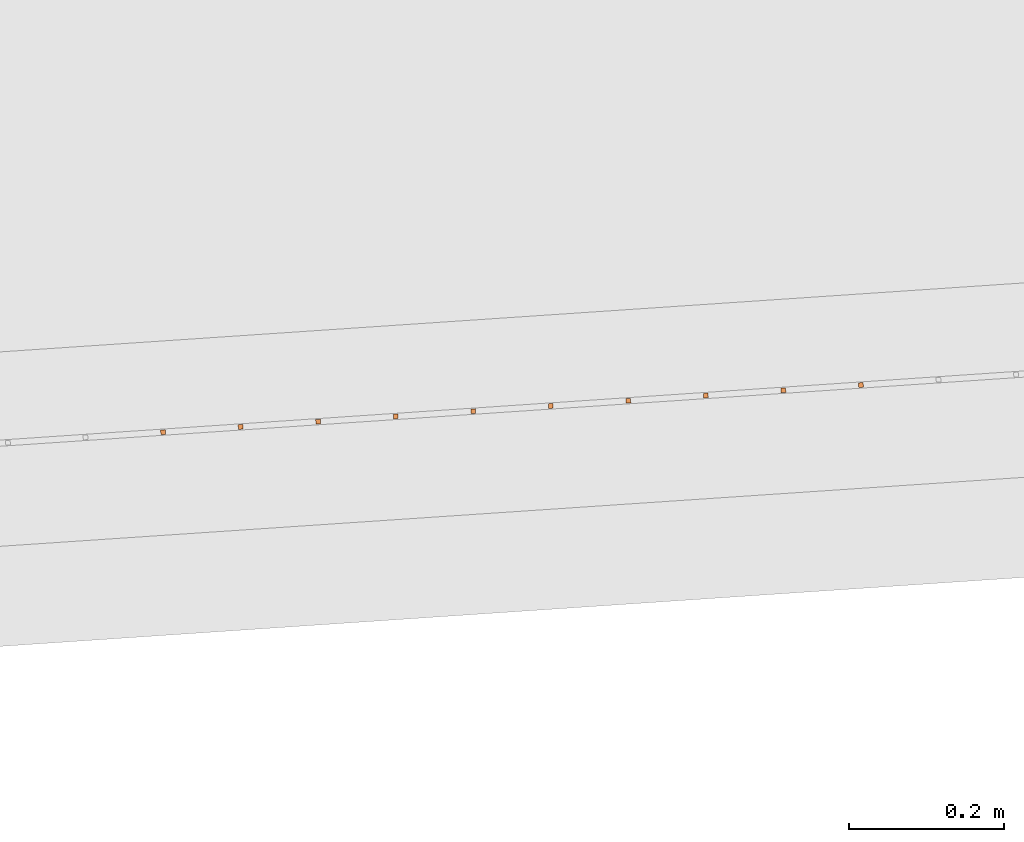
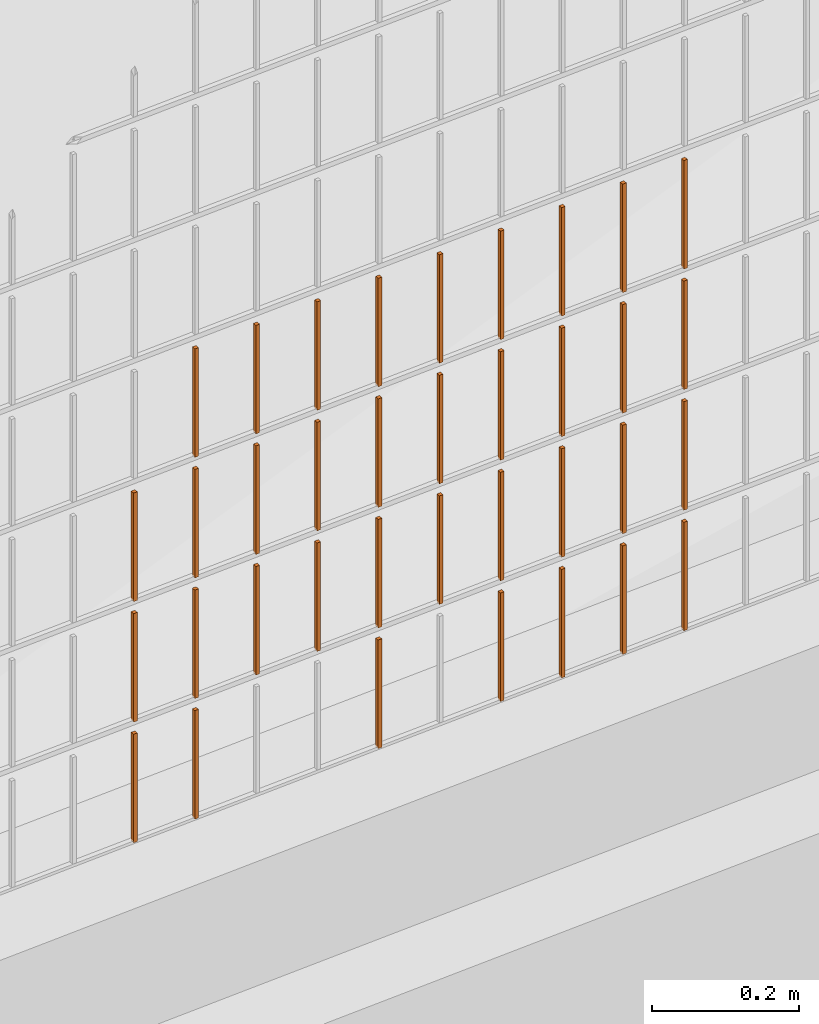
# One storey, part 71 of 1809: 36 proxies, 1 element without a shape of its own.
"""IFC2X3 building model written with IfcOpenShell, lengths in millimetres."""

from ifc_helpers import new_model, entity, si_unit, converted_unit, derived_unit, money_unit, direction, frame, origin_with_axes, place, context, subcontext, project, spatial, faceted_brep, source, transform, mapped, material, type_object, element, aggregate, save


model = new_model("IFC2X3")

# Units and contexts
model_context = context("Model", 3, precision=0.01, world=origin_with_axes(), true_north=direction((0.0, 1.0)))
body_context = subcontext(model_context, "Body", "Model", "MODEL_VIEW")
ifc_project = project(units=[si_unit("LENGTHUNIT", "METRE", prefix="MILLI"), si_unit("AREAUNIT", "SQUARE_METRE"), si_unit("VOLUMEUNIT", "CUBIC_METRE"), converted_unit("PLANEANGLEUNIT", "DEGREE", entity("IfcPlaneAngleMeasure", 0.0174532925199), si_unit("PLANEANGLEUNIT", "RADIAN"), dimensions=[0, 0, 0, 0, 0, 0, 0]), si_unit("SOLIDANGLEUNIT", "STERADIAN"), money_unit("EUR"), converted_unit("TIMEUNIT", "Year", entity("IfcTimeMeasure", 31556926.0), si_unit("TIMEUNIT", "SECOND"), dimensions=[0, 0, 1, 0, 0, 0, 0]), si_unit("MASSUNIT", "GRAM", prefix="KILO"), si_unit("THERMODYNAMICTEMPERATUREUNIT", "DEGREE_CELSIUS"), si_unit("LUMINOUSINTENSITYUNIT", "LUMEN"), si_unit("ENERGYUNIT", "JOULE", prefix="MEGA"), derived_unit("THERMALCONDUCTANCEUNIT", [(si_unit("POWERUNIT", "WATT"), 1), (si_unit("LENGTHUNIT", "METRE"), -1), (si_unit("THERMODYNAMICTEMPERATUREUNIT", "KELVIN"), -1)]), derived_unit("SPECIFICHEATCAPACITYUNIT", [(si_unit("ENERGYUNIT", "JOULE"), 1), (si_unit("MASSUNIT", "GRAM", prefix="KILO"), -1), (si_unit("THERMODYNAMICTEMPERATUREUNIT", "KELVIN"), -1)]), derived_unit("MASSDENSITYUNIT", [(si_unit("MASSUNIT", "GRAM", prefix="KILO"), 1), (si_unit("VOLUMEUNIT", "CUBIC_METRE"), -1)])], contexts=[model_context])

# Site, building, storey
site_placement = place(None, origin_with_axes())
site = spatial("IfcSite", under=ifc_project, at=site_placement, Name="Politse- ja Piirivalveameti ning Päästeameti ühishoone", CompositionType="ELEMENT")
building_placement = place(site_placement, origin_with_axes())
building = spatial("IfcBuilding", under=site, at=building_placement, Name="Politse- ja Piirivalveameti ning Päästeameti ühishoone", CompositionType="ELEMENT")
storey_placement = place(building_placement, origin_with_axes())
storey = spatial("IfcBuildingStorey", under=building, at=storey_placement, Name="Esimene korrus", CompositionType="ELEMENT", Elevation=0.0)

# Proxies
building_element_proxy_type_1 = type_object("IfcBuildingElementProxyType", Name="Railing Type", PredefinedType="NOTDEFINED")
proxy_1_placement = place(storey_placement, frame((89252.001212, -29183.4766571, 203.661247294), z_axis=(0.0, 0.0, 1.0), x_axis=(1.0, 0.0, 0.0)))
proxy_1 = element("IfcBuildingElementProxy", 1, at=proxy_1_placement, inside=storey, type_object=building_element_proxy_type_1, Name="PIIRDEAED")
ifc_material = material(Name="ET-03_Raud")
building_element_proxy_type_2 = type_object("IfcBuildingElementProxyType", Name="IfcBuildingElementProxy", PredefinedType="NOTDEFINED")
shared_shape_1 = source(origin_with_axes(), body_context, "Body", "Brep", [
    faceted_brep([(3.0, 3.0, -0.000752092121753), (-3.0, 3.0, -0.000752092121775), (-3.0, 3.0, 179.99926046), (3.0, 3.0, 179.99926046), (3.0, -3.0, 0.000752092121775), (-3.0, -3.0, 0.000752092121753), (-3.0, -3.0, 180.000764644), (3.0, -3.0, 180.000764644)], [[[0, 1, 2, 3]], [[0, 4, 5, 1]], [[1, 5, 6, 2]], [[3, 2, 6, 7]], [[4, 0, 3, 7]], [[5, 4, 7, 6]]]),
])
proxy_2_placement = place(proxy_1_placement, frame((-105187.003582, -24402.7598921, 400.804191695), z_axis=(0.0, 0.0, 1.0), x_axis=(1.0, 0.0, 0.0)))
proxy_2 = element("IfcBuildingElementProxy", 2, at=proxy_2_placement, type_object=building_element_proxy_type_2, material=ifc_material, Name="BALUSTER - 001", context=body_context, shape_type="MappedRepresentation", body=[
    mapped(shared_shape_1, transform((0.0, 0.0, 0.0), x_axis=(-0.0673926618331, 0.997726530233, 0.0), y_axis=(-0.997726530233, -0.0673926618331, 0.0), z_axis=(0.0, 0.0, 1.0))),
])
shared_shape_2 = source(origin_with_axes(), body_context, "Body", "Brep", [
    faceted_brep([(3.0, 3.0, -0.000752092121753), (-3.0, 3.0, -0.000752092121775), (-3.0, 3.0, 179.99926046), (3.0, 3.0, 179.99926046), (3.0, -3.0, 0.000752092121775), (-3.0, -3.0, 0.000752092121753), (-3.0, -3.0, 180.000764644), (3.0, -3.0, 180.000764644)], [[[0, 1, 2, 3]], [[0, 4, 5, 1]], [[1, 5, 6, 2]], [[3, 2, 6, 7]], [[4, 0, 3, 7]], [[5, 4, 7, 6]]]),
])
proxy_3_placement = place(proxy_1_placement, frame((-105187.003582, -24402.7598921, 0.804191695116), z_axis=(0.0, 0.0, 1.0), x_axis=(1.0, 0.0, 0.0)))
proxy_3 = element("IfcBuildingElementProxy", 3, at=proxy_3_placement, type_object=building_element_proxy_type_2, material=ifc_material, Name="BALUSTER - 001", context=body_context, shape_type="MappedRepresentation", body=[
    mapped(shared_shape_2, transform((0.0, 0.0, 0.0), x_axis=(-0.0673926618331, 0.997726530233, 0.0), y_axis=(-0.997726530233, -0.0673926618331, 0.0), z_axis=(0.0, 0.0, 1.0))),
])
shared_shape_3 = source(origin_with_axes(), body_context, "Body", "Brep", [
    faceted_brep([(3.0, 3.0, -0.000752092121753), (-3.0, 3.0, -0.000752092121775), (-3.0, 3.0, 179.99926046), (3.0, 3.0, 179.99926046), (3.0, -3.0, 0.000752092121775), (-3.0, -3.0, 0.000752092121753), (-3.0, -3.0, 180.000764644), (3.0, -3.0, 180.000764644)], [[[0, 1, 2, 3]], [[0, 4, 5, 1]], [[1, 5, 6, 2]], [[3, 2, 6, 7]], [[4, 0, 3, 7]], [[5, 4, 7, 6]]]),
])
proxy_4_placement = place(proxy_1_placement, frame((-105187.003582, -24402.7598921, 200.804191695), z_axis=(0.0, 0.0, 1.0), x_axis=(1.0, 0.0, 0.0)))
proxy_4 = element("IfcBuildingElementProxy", 4, at=proxy_4_placement, type_object=building_element_proxy_type_2, material=ifc_material, Name="BALUSTER - 001", context=body_context, shape_type="MappedRepresentation", body=[
    mapped(shared_shape_3, transform((0.0, 0.0, 0.0), x_axis=(-0.0673926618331, 0.997726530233, 0.0), y_axis=(-0.997726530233, -0.0673926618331, 0.0), z_axis=(0.0, 0.0, 1.0))),
])
proxy_5_placement = place(proxy_1_placement, frame((-105187.003582, -24402.7598921, 600.804191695), z_axis=(0.0, 0.0, 1.0), x_axis=(1.0, 0.0, 0.0)))
proxy_5 = element("IfcBuildingElementProxy", 5, at=proxy_5_placement, type_object=building_element_proxy_type_2, material=ifc_material, Name="BALUSTER - 001", context=body_context, shape_type="MappedRepresentation", body=[
    mapped(shared_shape_3, transform((0.0, 0.0, 0.0), x_axis=(-0.0673926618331, 0.997726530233, 0.0), y_axis=(-0.997726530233, -0.0673926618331, 0.0), z_axis=(0.0, 0.0, 1.0))),
])
shared_shape_4 = source(origin_with_axes(), body_context, "Body", "Brep", [
    faceted_brep([(3.0, 3.0, -0.000752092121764), (-3.0, 3.0, -0.000752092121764), (-3.0, 3.0, 179.99926046), (3.0, 3.0, 179.99926046), (3.0, -3.0, 0.000752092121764), (-3.0, -3.0, 0.000752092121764), (-3.0, -3.0, 180.000764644), (3.0, -3.0, 180.000764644)], [[[0, 1, 2, 3]], [[0, 4, 5, 1]], [[1, 5, 6, 2]], [[3, 2, 6, 7]], [[4, 0, 3, 7]], [[5, 4, 7, 6]]]),
])
proxy_6_placement = place(proxy_1_placement, frame((-105985.184806, -24456.6740216, 0.603633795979), z_axis=(0.0, 0.0, 1.0), x_axis=(1.0, 0.0, 0.0)))
proxy_6 = element("IfcBuildingElementProxy", 6, at=proxy_6_placement, type_object=building_element_proxy_type_2, material=ifc_material, Name="BALUSTER - 001", context=body_context, shape_type="MappedRepresentation", body=[
    mapped(shared_shape_4, transform((0.0, 0.0, 0.0), x_axis=(-0.0673926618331, 0.997726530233, 0.0), y_axis=(-0.997726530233, -0.0673926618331, 0.0), z_axis=(0.0, 0.0, 1.0))),
])
shared_shape_5 = source(origin_with_axes(), body_context, "Body", "Brep", [
    faceted_brep([(3.0, 3.0, -0.000752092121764), (-3.0, 3.0, -0.000752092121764), (-3.0, 3.0, 179.99926046), (3.0, 3.0, 179.99926046), (3.0, -3.0, 0.000752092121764), (-3.0, -3.0, 0.000752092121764), (-3.0, -3.0, 180.000764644), (3.0, -3.0, 180.000764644)], [[[0, 1, 2, 3]], [[0, 4, 5, 1]], [[1, 5, 6, 2]], [[3, 2, 6, 7]], [[4, 0, 3, 7]], [[5, 4, 7, 6]]]),
])
proxy_7_placement = place(proxy_1_placement, frame((-105386.548888, -24416.2384245, 0.754052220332), z_axis=(0.0, 0.0, 1.0), x_axis=(1.0, 0.0, 0.0)))
proxy_7 = element("IfcBuildingElementProxy", 7, at=proxy_7_placement, type_object=building_element_proxy_type_2, material=ifc_material, Name="BALUSTER - 001", context=body_context, shape_type="MappedRepresentation", body=[
    mapped(shared_shape_5, transform((0.0, 0.0, 0.0), x_axis=(-0.0673926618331, 0.997726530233, 0.0), y_axis=(-0.997726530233, -0.0673926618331, 0.0), z_axis=(0.0, 0.0, 1.0))),
])
shared_shape_6 = source(origin_with_axes(), body_context, "Body", "Brep", [
    faceted_brep([(3.0, 3.0, -0.000752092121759), (-3.0, 3.0, -0.000752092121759), (-3.0, 3.0, 179.99926046), (3.0, 3.0, 179.99926046), (3.0, -3.0, 0.000752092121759), (-3.0, -3.0, 0.000752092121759), (-3.0, -3.0, 180.000764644), (3.0, -3.0, 180.000764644)], [[[0, 1, 2, 3]], [[0, 4, 5, 1]], [[1, 5, 6, 2]], [[3, 2, 6, 7]], [[4, 0, 3, 7]], [[5, 4, 7, 6]]]),
])
proxy_8_placement = place(proxy_1_placement, frame((-105486.321541, -24422.9776907, 0.72898248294), z_axis=(0.0, 0.0, 1.0), x_axis=(1.0, 0.0, 0.0)))
proxy_8 = element("IfcBuildingElementProxy", 8, at=proxy_8_placement, type_object=building_element_proxy_type_2, material=ifc_material, Name="BALUSTER - 001", context=body_context, shape_type="MappedRepresentation", body=[
    mapped(shared_shape_6, transform((0.0, 0.0, 0.0), x_axis=(-0.0673926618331, 0.997726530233, 0.0), y_axis=(-0.997726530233, -0.0673926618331, 0.0), z_axis=(0.0, 0.0, 1.0))),
])
proxy_9_placement = place(proxy_1_placement, frame((-105486.321541, -24422.9776907, 200.728982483), z_axis=(0.0, 0.0, 1.0), x_axis=(1.0, 0.0, 0.0)))
proxy_9 = element("IfcBuildingElementProxy", 9, at=proxy_9_placement, type_object=building_element_proxy_type_2, material=ifc_material, Name="BALUSTER - 001", context=body_context, shape_type="MappedRepresentation", body=[
    mapped(shared_shape_6, transform((0.0, 0.0, 0.0), x_axis=(-0.0673926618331, 0.997726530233, 0.0), y_axis=(-0.997726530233, -0.0673926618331, 0.0), z_axis=(0.0, 0.0, 1.0))),
])
shared_shape_7 = source(origin_with_axes(), body_context, "Body", "Brep", [
    faceted_brep([(3.0, 3.0, -0.000752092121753), (-3.0, 3.0, -0.000752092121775), (-3.0, 3.0, 179.99926046), (3.0, 3.0, 179.99926046), (3.0, -3.0, 0.000752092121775), (-3.0, -3.0, 0.000752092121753), (-3.0, -3.0, 180.000764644), (3.0, -3.0, 180.000764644)], [[[0, 1, 2, 3]], [[0, 4, 5, 1]], [[1, 5, 6, 2]], [[3, 2, 6, 7]], [[4, 0, 3, 7]], [[5, 4, 7, 6]]]),
])
proxy_10_placement = place(proxy_1_placement, frame((-106084.957459, -24463.4132878, 0.578564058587), z_axis=(0.0, 0.0, 1.0), x_axis=(1.0, 0.0, 0.0)))
proxy_10 = element("IfcBuildingElementProxy", 10, at=proxy_10_placement, type_object=building_element_proxy_type_2, material=ifc_material, Name="BALUSTER - 001", context=body_context, shape_type="MappedRepresentation", body=[
    mapped(shared_shape_7, transform((0.0, 0.0, 0.0), x_axis=(-0.0673926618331, 0.997726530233, 0.0), y_axis=(-0.997726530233, -0.0673926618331, 0.0), z_axis=(0.0, 0.0, 1.0))),
])
proxy_11_placement = place(proxy_1_placement, frame((-106084.957459, -24463.4132878, 200.578564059), z_axis=(0.0, 0.0, 1.0), x_axis=(1.0, 0.0, 0.0)))
proxy_11 = element("IfcBuildingElementProxy", 11, at=proxy_11_placement, type_object=building_element_proxy_type_2, material=ifc_material, Name="BALUSTER - 001", context=body_context, shape_type="MappedRepresentation", body=[
    mapped(shared_shape_7, transform((0.0, 0.0, 0.0), x_axis=(-0.0673926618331, 0.997726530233, 0.0), y_axis=(-0.997726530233, -0.0673926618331, 0.0), z_axis=(0.0, 0.0, 1.0))),
])
shared_shape_8 = source(origin_with_axes(), body_context, "Body", "Brep", [
    faceted_brep([(3.0, 3.0, -0.000752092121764), (-3.0, 3.0, -0.000752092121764), (-3.0, 3.0, 179.99926046), (3.0, 3.0, 179.99926046), (3.0, -3.0, 0.000752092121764), (-3.0, -3.0, 0.000752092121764), (-3.0, -3.0, 180.000764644), (3.0, -3.0, 180.000764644)], [[[0, 1, 2, 3]], [[0, 4, 5, 1]], [[1, 5, 6, 2]], [[3, 2, 6, 7]], [[4, 0, 3, 7]], [[5, 4, 7, 6]]]),
])
proxy_12_placement = place(proxy_1_placement, frame((-105386.548888, -24416.2384245, 200.75405222), z_axis=(0.0, 0.0, 1.0), x_axis=(1.0, 0.0, 0.0)))
proxy_12 = element("IfcBuildingElementProxy", 12, at=proxy_12_placement, type_object=building_element_proxy_type_2, material=ifc_material, Name="BALUSTER - 001", context=body_context, shape_type="MappedRepresentation", body=[
    mapped(shared_shape_8, transform((0.0, 0.0, 0.0), x_axis=(-0.0673926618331, 0.997726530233, 0.0), y_axis=(-0.997726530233, -0.0673926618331, 0.0), z_axis=(0.0, 0.0, 1.0))),
])
proxy_13_placement = place(proxy_1_placement, frame((-105985.184806, -24456.6740216, 200.603633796), z_axis=(0.0, 0.0, 1.0), x_axis=(1.0, 0.0, 0.0)))
proxy_13 = element("IfcBuildingElementProxy", 13, at=proxy_13_placement, type_object=building_element_proxy_type_2, material=ifc_material, Name="BALUSTER - 001", context=body_context, shape_type="MappedRepresentation", body=[
    mapped(shared_shape_8, transform((0.0, 0.0, 0.0), x_axis=(-0.0673926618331, 0.997726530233, 0.0), y_axis=(-0.997726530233, -0.0673926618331, 0.0), z_axis=(0.0, 0.0, 1.0))),
])
shared_shape_9 = source(origin_with_axes(), body_context, "Body", "Brep", [
    faceted_brep([(3.0, 3.0, -0.000752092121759), (-3.0, 3.0, -0.000752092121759), (-3.0, 3.0, 179.99926046), (3.0, 3.0, 179.99926046), (3.0, -3.0, 0.000752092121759), (-3.0, -3.0, 0.000752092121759), (-3.0, -3.0, 180.000764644), (3.0, -3.0, 180.000764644)], [[[0, 1, 2, 3]], [[0, 4, 5, 1]], [[1, 5, 6, 2]], [[3, 2, 6, 7]], [[4, 0, 3, 7]], [[5, 4, 7, 6]]]),
])
proxy_14_placement = place(proxy_1_placement, frame((-105586.094194, -24429.7169569, 400.703912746), z_axis=(0.0, 0.0, 1.0), x_axis=(1.0, 0.0, 0.0)))
proxy_14 = element("IfcBuildingElementProxy", 14, at=proxy_14_placement, type_object=building_element_proxy_type_2, material=ifc_material, Name="BALUSTER - 001", context=body_context, shape_type="MappedRepresentation", body=[
    mapped(shared_shape_9, transform((0.0, 0.0, 0.0), x_axis=(-0.0673926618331, 0.997726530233, 0.0), y_axis=(-0.997726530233, -0.0673926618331, 0.0), z_axis=(0.0, 0.0, 1.0))),
])
shared_shape_10 = source(origin_with_axes(), body_context, "Body", "Brep", [
    faceted_brep([(3.0, 3.0, -0.000752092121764), (-3.0, 3.0, -0.000752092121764), (-3.0, 3.0, 179.99926046), (3.0, 3.0, 179.99926046), (3.0, -3.0, 0.000752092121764), (-3.0, -3.0, 0.000752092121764), (-3.0, -3.0, 180.000764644), (3.0, -3.0, 180.000764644)], [[[0, 1, 2, 3]], [[0, 4, 5, 1]], [[1, 5, 6, 2]], [[3, 2, 6, 7]], [[4, 0, 3, 7]], [[5, 4, 7, 6]]]),
])
proxy_15_placement = place(proxy_1_placement, frame((-105386.548888, -24416.2384245, 400.75405222), z_axis=(0.0, 0.0, 1.0), x_axis=(1.0, 0.0, 0.0)))
proxy_15 = element("IfcBuildingElementProxy", 15, at=proxy_15_placement, type_object=building_element_proxy_type_2, material=ifc_material, Name="BALUSTER - 001", context=body_context, shape_type="MappedRepresentation", body=[
    mapped(shared_shape_10, transform((0.0, 0.0, 0.0), x_axis=(-0.0673926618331, 0.997726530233, 0.0), y_axis=(-0.997726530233, -0.0673926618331, 0.0), z_axis=(0.0, 0.0, 1.0))),
])
proxy_16_placement = place(proxy_1_placement, frame((-105985.184806, -24456.6740216, 400.603633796), z_axis=(0.0, 0.0, 1.0), x_axis=(1.0, 0.0, 0.0)))
proxy_16 = element("IfcBuildingElementProxy", 16, at=proxy_16_placement, type_object=building_element_proxy_type_2, material=ifc_material, Name="BALUSTER - 001", context=body_context, shape_type="MappedRepresentation", body=[
    mapped(shared_shape_10, transform((0.0, 0.0, 0.0), x_axis=(-0.0673926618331, 0.997726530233, 0.0), y_axis=(-0.997726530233, -0.0673926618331, 0.0), z_axis=(0.0, 0.0, 1.0))),
])
proxy_17_placement = place(proxy_1_placement, frame((-105386.548888, -24416.2384245, 600.75405222), z_axis=(0.0, 0.0, 1.0), x_axis=(1.0, 0.0, 0.0)))
proxy_17 = element("IfcBuildingElementProxy", 17, at=proxy_17_placement, type_object=building_element_proxy_type_2, material=ifc_material, Name="BALUSTER - 001", context=body_context, shape_type="MappedRepresentation", body=[
    mapped(shared_shape_10, transform((0.0, 0.0, 0.0), x_axis=(-0.0673926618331, 0.997726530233, 0.0), y_axis=(-0.997726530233, -0.0673926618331, 0.0), z_axis=(0.0, 0.0, 1.0))),
])
shared_shape_11 = source(origin_with_axes(), body_context, "Body", "Brep", [
    faceted_brep([(3.0, 3.0, -0.000752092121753), (-3.0, 3.0, -0.000752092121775), (-3.0, 3.0, 179.99926046), (3.0, 3.0, 179.99926046), (3.0, -3.0, 0.000752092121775), (-3.0, -3.0, 0.000752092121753), (-3.0, -3.0, 180.000764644), (3.0, -3.0, 180.000764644)], [[[0, 1, 2, 3]], [[0, 4, 5, 1]], [[1, 5, 6, 2]], [[3, 2, 6, 7]], [[4, 0, 3, 7]], [[5, 4, 7, 6]]]),
])
proxy_18_placement = place(proxy_1_placement, frame((-105685.866847, -24436.456223, 400.678843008), z_axis=(0.0, 0.0, 1.0), x_axis=(1.0, 0.0, 0.0)))
proxy_18 = element("IfcBuildingElementProxy", 18, at=proxy_18_placement, type_object=building_element_proxy_type_2, material=ifc_material, Name="BALUSTER - 001", context=body_context, shape_type="MappedRepresentation", body=[
    mapped(shared_shape_11, transform((0.0, 0.0, 0.0), x_axis=(-0.0673926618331, 0.997726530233, 0.0), y_axis=(-0.997726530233, -0.0673926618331, 0.0), z_axis=(0.0, 0.0, 1.0))),
])
proxy_19_placement = place(proxy_1_placement, frame((-105685.866847, -24436.456223, 600.678843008), z_axis=(0.0, 0.0, 1.0), x_axis=(1.0, 0.0, 0.0)))
proxy_19 = element("IfcBuildingElementProxy", 19, at=proxy_19_placement, type_object=building_element_proxy_type_2, material=ifc_material, Name="BALUSTER - 001", context=body_context, shape_type="MappedRepresentation", body=[
    mapped(shared_shape_11, transform((0.0, 0.0, 0.0), x_axis=(-0.0673926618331, 0.997726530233, 0.0), y_axis=(-0.997726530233, -0.0673926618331, 0.0), z_axis=(0.0, 0.0, 1.0))),
])
shared_shape_12 = source(origin_with_axes(), body_context, "Body", "Brep", [
    faceted_brep([(3.0, 3.0, -0.000752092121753), (-3.0, 3.0, -0.000752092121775), (-3.0, 3.0, 179.99926046), (3.0, 3.0, 179.99926046), (3.0, -3.0, 0.000752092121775), (-3.0, -3.0, 0.000752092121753), (-3.0, -3.0, 180.000764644), (3.0, -3.0, 180.000764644)], [[[0, 1, 2, 3]], [[0, 4, 5, 1]], [[1, 5, 6, 2]], [[3, 2, 6, 7]], [[4, 0, 3, 7]], [[5, 4, 7, 6]]]),
])
proxy_20_placement = place(proxy_1_placement, frame((-105885.412153, -24449.9347554, 400.628703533), z_axis=(0.0, 0.0, 1.0), x_axis=(1.0, 0.0, 0.0)))
proxy_20 = element("IfcBuildingElementProxy", 20, at=proxy_20_placement, type_object=building_element_proxy_type_2, material=ifc_material, Name="BALUSTER - 001", context=body_context, shape_type="MappedRepresentation", body=[
    mapped(shared_shape_12, transform((0.0, 0.0, 0.0), x_axis=(-0.0673926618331, 0.997726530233, 0.0), y_axis=(-0.997726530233, -0.0673926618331, 0.0), z_axis=(0.0, 0.0, 1.0))),
])
shared_shape_13 = source(origin_with_axes(), body_context, "Body", "Brep", [
    faceted_brep([(3.0, 3.0, -0.000752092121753), (-3.0, 3.0, -0.000752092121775), (-3.0, 3.0, 179.99926046), (3.0, 3.0, 179.99926046), (3.0, -3.0, 0.000752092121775), (-3.0, -3.0, 0.000752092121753), (-3.0, -3.0, 180.000764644), (3.0, -3.0, 180.000764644)], [[[0, 1, 2, 3]], [[0, 4, 5, 1]], [[1, 5, 6, 2]], [[3, 2, 6, 7]], [[4, 0, 3, 7]], [[5, 4, 7, 6]]]),
])
proxy_21_placement = place(proxy_1_placement, frame((-105885.412153, -24449.9347554, 200.628703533), z_axis=(0.0, 0.0, 1.0), x_axis=(1.0, 0.0, 0.0)))
proxy_21 = element("IfcBuildingElementProxy", 21, at=proxy_21_placement, type_object=building_element_proxy_type_2, material=ifc_material, Name="BALUSTER - 001", context=body_context, shape_type="MappedRepresentation", body=[
    mapped(shared_shape_13, transform((0.0, 0.0, 0.0), x_axis=(-0.0673926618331, 0.997726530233, 0.0), y_axis=(-0.997726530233, -0.0673926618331, 0.0), z_axis=(0.0, 0.0, 1.0))),
])
proxy_22_placement = place(proxy_1_placement, frame((-106084.957459, -24463.4132878, 400.578564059), z_axis=(0.0, 0.0, 1.0), x_axis=(1.0, 0.0, 0.0)))
proxy_22 = element("IfcBuildingElementProxy", 22, at=proxy_22_placement, type_object=building_element_proxy_type_2, material=ifc_material, Name="BALUSTER - 001", context=body_context, shape_type="MappedRepresentation", body=[
    mapped(shared_shape_13, transform((0.0, 0.0, 0.0), x_axis=(-0.0673926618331, 0.997726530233, 0.0), y_axis=(-0.997726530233, -0.0673926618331, 0.0), z_axis=(0.0, 0.0, 1.0))),
])
proxy_23_placement = place(proxy_1_placement, frame((-105885.412153, -24449.9347554, 600.628703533), z_axis=(0.0, 0.0, 1.0), x_axis=(1.0, 0.0, 0.0)))
proxy_23 = element("IfcBuildingElementProxy", 23, at=proxy_23_placement, type_object=building_element_proxy_type_2, material=ifc_material, Name="BALUSTER - 001", context=body_context, shape_type="MappedRepresentation", body=[
    mapped(shared_shape_13, transform((0.0, 0.0, 0.0), x_axis=(-0.0673926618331, 0.997726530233, 0.0), y_axis=(-0.997726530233, -0.0673926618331, 0.0), z_axis=(0.0, 0.0, 1.0))),
])
shared_shape_14 = source(origin_with_axes(), body_context, "Body", "Brep", [
    faceted_brep([(3.0, 3.0, -0.000752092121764), (-3.0, 3.0, -0.000752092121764), (-3.0, 3.0, 179.99926046), (3.0, 3.0, 179.99926046), (3.0, -3.0, 0.000752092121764), (-3.0, -3.0, 0.000752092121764), (-3.0, -3.0, 180.000764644), (3.0, -3.0, 180.000764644)], [[[0, 1, 2, 3]], [[0, 4, 5, 1]], [[1, 5, 6, 2]], [[3, 2, 6, 7]], [[4, 0, 3, 7]], [[5, 4, 7, 6]]]),
])
proxy_24_placement = place(proxy_1_placement, frame((-105286.776235, -24409.4991583, 200.779121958), z_axis=(0.0, 0.0, 1.0), x_axis=(1.0, 0.0, 0.0)))
proxy_24 = element("IfcBuildingElementProxy", 24, at=proxy_24_placement, type_object=building_element_proxy_type_2, material=ifc_material, Name="BALUSTER - 001", context=body_context, shape_type="MappedRepresentation", body=[
    mapped(shared_shape_14, transform((0.0, 0.0, 0.0), x_axis=(-0.0673926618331, 0.997726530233, 0.0), y_axis=(-0.997726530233, -0.0673926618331, 0.0), z_axis=(0.0, 0.0, 1.0))),
])
proxy_25_placement = place(proxy_1_placement, frame((-105286.776235, -24409.4991583, 400.779121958), z_axis=(0.0, 0.0, 1.0), x_axis=(1.0, 0.0, 0.0)))
proxy_25 = element("IfcBuildingElementProxy", 25, at=proxy_25_placement, type_object=building_element_proxy_type_2, material=ifc_material, Name="BALUSTER - 001", context=body_context, shape_type="MappedRepresentation", body=[
    mapped(shared_shape_14, transform((0.0, 0.0, 0.0), x_axis=(-0.0673926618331, 0.997726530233, 0.0), y_axis=(-0.997726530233, -0.0673926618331, 0.0), z_axis=(0.0, 0.0, 1.0))),
])
shared_shape_15 = source(origin_with_axes(), body_context, "Body", "Brep", [
    faceted_brep([(3.0, 3.0, -0.000752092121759), (-3.0, 3.0, -0.000752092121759), (-3.0, 3.0, 179.99926046), (3.0, 3.0, 179.99926046), (3.0, -3.0, 0.000752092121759), (-3.0, -3.0, 0.000752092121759), (-3.0, -3.0, 180.000764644), (3.0, -3.0, 180.000764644)], [[[0, 1, 2, 3]], [[0, 4, 5, 1]], [[1, 5, 6, 2]], [[3, 2, 6, 7]], [[4, 0, 3, 7]], [[5, 4, 7, 6]]]),
])
proxy_26_placement = place(proxy_1_placement, frame((-105486.321541, -24422.9776907, 600.728982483), z_axis=(0.0, 0.0, 1.0), x_axis=(1.0, 0.0, 0.0)))
proxy_26 = element("IfcBuildingElementProxy", 26, at=proxy_26_placement, type_object=building_element_proxy_type_2, material=ifc_material, Name="BALUSTER - 001", context=body_context, shape_type="MappedRepresentation", body=[
    mapped(shared_shape_15, transform((0.0, 0.0, 0.0), x_axis=(-0.0673926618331, 0.997726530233, 0.0), y_axis=(-0.997726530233, -0.0673926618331, 0.0), z_axis=(0.0, 0.0, 1.0))),
])
shared_shape_16 = source(origin_with_axes(), body_context, "Body", "Brep", [
    faceted_brep([(3.0, 3.0, -0.000752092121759), (-3.0, 3.0, -0.000752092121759), (-3.0, 3.0, 179.99926046), (3.0, 3.0, 179.99926046), (3.0, -3.0, 0.000752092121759), (-3.0, -3.0, 0.000752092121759), (-3.0, -3.0, 180.000764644), (3.0, -3.0, 180.000764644)], [[[0, 1, 2, 3]], [[0, 4, 5, 1]], [[1, 5, 6, 2]], [[3, 2, 6, 7]], [[4, 0, 3, 7]], [[5, 4, 7, 6]]]),
])
proxy_27_placement = place(proxy_1_placement, frame((-105586.094194, -24429.7169569, 600.703912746), z_axis=(0.0, 0.0, 1.0), x_axis=(1.0, 0.0, 0.0)))
proxy_27 = element("IfcBuildingElementProxy", 27, at=proxy_27_placement, type_object=building_element_proxy_type_2, material=ifc_material, Name="BALUSTER - 001", context=body_context, shape_type="MappedRepresentation", body=[
    mapped(shared_shape_16, transform((0.0, 0.0, 0.0), x_axis=(-0.0673926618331, 0.997726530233, 0.0), y_axis=(-0.997726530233, -0.0673926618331, 0.0), z_axis=(0.0, 0.0, 1.0))),
])
shared_shape_17 = source(origin_with_axes(), body_context, "Body", "Brep", [
    faceted_brep([(3.0, 3.0, -0.000752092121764), (-3.0, 3.0, -0.000752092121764), (-3.0, 3.0, 179.99926046), (3.0, 3.0, 179.99926046), (3.0, -3.0, 0.000752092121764), (-3.0, -3.0, 0.000752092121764), (-3.0, -3.0, 180.000764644), (3.0, -3.0, 180.000764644)], [[[0, 1, 2, 3]], [[0, 4, 5, 1]], [[1, 5, 6, 2]], [[3, 2, 6, 7]], [[4, 0, 3, 7]], [[5, 4, 7, 6]]]),
])
proxy_28_placement = place(proxy_1_placement, frame((-105985.184806, -24456.6740216, 600.603633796), z_axis=(0.0, 0.0, 1.0), x_axis=(1.0, 0.0, 0.0)))
proxy_28 = element("IfcBuildingElementProxy", 28, at=proxy_28_placement, type_object=building_element_proxy_type_2, material=ifc_material, Name="BALUSTER - 001", context=body_context, shape_type="MappedRepresentation", body=[
    mapped(shared_shape_17, transform((0.0, 0.0, 0.0), x_axis=(-0.0673926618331, 0.997726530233, 0.0), y_axis=(-0.997726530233, -0.0673926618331, 0.0), z_axis=(0.0, 0.0, 1.0))),
])
shared_shape_18 = source(origin_with_axes(), body_context, "Body", "Brep", [
    faceted_brep([(3.0, 3.0, -0.000752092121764), (-3.0, 3.0, -0.000752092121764), (-3.0, 3.0, 179.99926046), (3.0, 3.0, 179.99926046), (3.0, -3.0, 0.000752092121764), (-3.0, -3.0, 0.000752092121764), (-3.0, -3.0, 180.000764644), (3.0, -3.0, 180.000764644)], [[[0, 1, 2, 3]], [[0, 4, 5, 1]], [[1, 5, 6, 2]], [[3, 2, 6, 7]], [[4, 0, 3, 7]], [[5, 4, 7, 6]]]),
])
proxy_29_placement = place(proxy_1_placement, frame((-105286.776235, -24409.4991583, 600.779121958), z_axis=(0.0, 0.0, 1.0), x_axis=(1.0, 0.0, 0.0)))
proxy_29 = element("IfcBuildingElementProxy", 29, at=proxy_29_placement, type_object=building_element_proxy_type_2, material=ifc_material, Name="BALUSTER - 001", context=body_context, shape_type="MappedRepresentation", body=[
    mapped(shared_shape_18, transform((0.0, 0.0, 0.0), x_axis=(-0.0673926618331, 0.997726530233, 0.0), y_axis=(-0.997726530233, -0.0673926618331, 0.0), z_axis=(0.0, 0.0, 1.0))),
])
shared_shape_19 = source(origin_with_axes(), body_context, "Body", "Brep", [
    faceted_brep([(3.0, 3.0, -0.000752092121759), (-3.0, 3.0, -0.000752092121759), (-3.0, 3.0, 179.99926046), (3.0, 3.0, 179.99926046), (3.0, -3.0, 0.000752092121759), (-3.0, -3.0, 0.000752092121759), (-3.0, -3.0, 180.000764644), (3.0, -3.0, 180.000764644)], [[[0, 1, 2, 3]], [[0, 4, 5, 1]], [[1, 5, 6, 2]], [[3, 2, 6, 7]], [[4, 0, 3, 7]], [[5, 4, 7, 6]]]),
])
proxy_30_placement = place(proxy_1_placement, frame((-105586.094194, -24429.7169569, 200.703912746), z_axis=(0.0, 0.0, 1.0), x_axis=(1.0, 0.0, 0.0)))
proxy_30 = element("IfcBuildingElementProxy", 30, at=proxy_30_placement, type_object=building_element_proxy_type_2, material=ifc_material, Name="BALUSTER - 001", context=body_context, shape_type="MappedRepresentation", body=[
    mapped(shared_shape_19, transform((0.0, 0.0, 0.0), x_axis=(-0.0673926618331, 0.997726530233, 0.0), y_axis=(-0.997726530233, -0.0673926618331, 0.0), z_axis=(0.0, 0.0, 1.0))),
])
shared_shape_20 = source(origin_with_axes(), body_context, "Body", "Brep", [
    faceted_brep([(3.0, 3.0, -0.000752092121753), (-3.0, 3.0, -0.000752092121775), (-3.0, 3.0, 179.99926046), (3.0, 3.0, 179.99926046), (3.0, -3.0, 0.000752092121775), (-3.0, -3.0, 0.000752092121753), (-3.0, -3.0, 180.000764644), (3.0, -3.0, 180.000764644)], [[[0, 1, 2, 3]], [[0, 4, 5, 1]], [[1, 5, 6, 2]], [[3, 2, 6, 7]], [[4, 0, 3, 7]], [[5, 4, 7, 6]]]),
])
proxy_31_placement = place(proxy_1_placement, frame((-105685.866847, -24436.456223, 0.678843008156), z_axis=(0.0, 0.0, 1.0), x_axis=(1.0, 0.0, 0.0)))
proxy_31 = element("IfcBuildingElementProxy", 31, at=proxy_31_placement, type_object=building_element_proxy_type_2, material=ifc_material, Name="BALUSTER - 001", context=body_context, shape_type="MappedRepresentation", body=[
    mapped(shared_shape_20, transform((0.0, 0.0, 0.0), x_axis=(-0.0673926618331, 0.997726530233, 0.0), y_axis=(-0.997726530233, -0.0673926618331, 0.0), z_axis=(0.0, 0.0, 1.0))),
])
shared_shape_21 = source(origin_with_axes(), body_context, "Body", "Brep", [
    faceted_brep([(3.0, 3.0, -0.000752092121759), (-3.0, 3.0, -0.000752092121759), (-3.0, 3.0, 179.99926046), (3.0, 3.0, 179.99926046), (3.0, -3.0, 0.000752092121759), (-3.0, -3.0, 0.000752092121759), (-3.0, -3.0, 180.000764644), (3.0, -3.0, 180.000764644)], [[[0, 1, 2, 3]], [[0, 4, 5, 1]], [[1, 5, 6, 2]], [[3, 2, 6, 7]], [[4, 0, 3, 7]], [[5, 4, 7, 6]]]),
])
proxy_32_placement = place(proxy_1_placement, frame((-105486.321541, -24422.9776907, 400.728982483), z_axis=(0.0, 0.0, 1.0), x_axis=(1.0, 0.0, 0.0)))
proxy_32 = element("IfcBuildingElementProxy", 32, at=proxy_32_placement, type_object=building_element_proxy_type_2, material=ifc_material, Name="BALUSTER - 001", context=body_context, shape_type="MappedRepresentation", body=[
    mapped(shared_shape_21, transform((0.0, 0.0, 0.0), x_axis=(-0.0673926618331, 0.997726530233, 0.0), y_axis=(-0.997726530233, -0.0673926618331, 0.0), z_axis=(0.0, 0.0, 1.0))),
])
shared_shape_22 = source(origin_with_axes(), body_context, "Body", "Brep", [
    faceted_brep([(3.0, 3.0, -0.000752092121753), (-3.0, 3.0, -0.000752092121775), (-3.0, 3.0, 179.99926046), (3.0, 3.0, 179.99926046), (3.0, -3.0, 0.000752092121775), (-3.0, -3.0, 0.000752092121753), (-3.0, -3.0, 180.000764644), (3.0, -3.0, 180.000764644)], [[[0, 1, 2, 3]], [[0, 4, 5, 1]], [[1, 5, 6, 2]], [[3, 2, 6, 7]], [[4, 0, 3, 7]], [[5, 4, 7, 6]]]),
])
proxy_33_placement = place(proxy_1_placement, frame((-105685.866847, -24436.456223, 200.678843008), z_axis=(0.0, 0.0, 1.0), x_axis=(1.0, 0.0, 0.0)))
proxy_33 = element("IfcBuildingElementProxy", 33, at=proxy_33_placement, type_object=building_element_proxy_type_2, material=ifc_material, Name="BALUSTER - 001", context=body_context, shape_type="MappedRepresentation", body=[
    mapped(shared_shape_22, transform((0.0, 0.0, 0.0), x_axis=(-0.0673926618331, 0.997726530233, 0.0), y_axis=(-0.997726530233, -0.0673926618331, 0.0), z_axis=(0.0, 0.0, 1.0))),
])
shared_shape_23 = source(origin_with_axes(), body_context, "Body", "Brep", [
    faceted_brep([(3.0, 3.0, -0.000752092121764), (-3.0, 3.0, -0.000752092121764), (-3.0, 3.0, 179.99926046), (3.0, 3.0, 179.99926046), (3.0, -3.0, 0.000752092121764), (-3.0, -3.0, 0.000752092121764), (-3.0, -3.0, 180.000764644), (3.0, -3.0, 180.000764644)], [[[0, 1, 2, 3]], [[0, 4, 5, 1]], [[1, 5, 6, 2]], [[3, 2, 6, 7]], [[4, 0, 3, 7]], [[5, 4, 7, 6]]]),
])
proxy_34_placement = place(proxy_1_placement, frame((-105286.776235, -24409.4991583, 0.779121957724), z_axis=(0.0, 0.0, 1.0), x_axis=(1.0, 0.0, 0.0)))
proxy_34 = element("IfcBuildingElementProxy", 34, at=proxy_34_placement, type_object=building_element_proxy_type_2, material=ifc_material, Name="BALUSTER - 001", context=body_context, shape_type="MappedRepresentation", body=[
    mapped(shared_shape_23, transform((0.0, 0.0, 0.0), x_axis=(-0.0673926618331, 0.997726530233, 0.0), y_axis=(-0.997726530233, -0.0673926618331, 0.0), z_axis=(0.0, 0.0, 1.0))),
])
shared_shape_24 = source(origin_with_axes(), body_context, "Body", "Brep", [
    faceted_brep([(3.0, 3.0, -0.000752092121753), (-3.0, 3.0, -0.000752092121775), (-3.0, 3.0, 179.99926046), (3.0, 3.0, 179.99926046), (3.0, -3.0, 0.000752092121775), (-3.0, -3.0, 0.000752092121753), (-3.0, -3.0, 180.000764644), (3.0, -3.0, 180.000764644)], [[[0, 1, 2, 3]], [[0, 4, 5, 1]], [[1, 5, 6, 2]], [[3, 2, 6, 7]], [[4, 0, 3, 7]], [[5, 4, 7, 6]]]),
])
proxy_35_placement = place(proxy_1_placement, frame((-105785.6395, -24443.1954892, 200.653773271), z_axis=(0.0, 0.0, 1.0), x_axis=(1.0, 0.0, 0.0)))
proxy_35 = element("IfcBuildingElementProxy", 35, at=proxy_35_placement, type_object=building_element_proxy_type_2, material=ifc_material, Name="BALUSTER - 001", context=body_context, shape_type="MappedRepresentation", body=[
    mapped(shared_shape_24, transform((0.0, 0.0, 0.0), x_axis=(-0.0673926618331, 0.997726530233, 0.0), y_axis=(-0.997726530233, -0.0673926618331, 0.0), z_axis=(0.0, 0.0, 1.0))),
])
proxy_36_placement = place(proxy_1_placement, frame((-105785.6395, -24443.1954892, 400.653773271), z_axis=(0.0, 0.0, 1.0), x_axis=(1.0, 0.0, 0.0)))
proxy_36 = element("IfcBuildingElementProxy", 36, at=proxy_36_placement, type_object=building_element_proxy_type_2, material=ifc_material, Name="BALUSTER - 001", context=body_context, shape_type="MappedRepresentation", body=[
    mapped(shared_shape_24, transform((0.0, 0.0, 0.0), x_axis=(-0.0673926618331, 0.997726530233, 0.0), y_axis=(-0.997726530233, -0.0673926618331, 0.0), z_axis=(0.0, 0.0, 1.0))),
])
proxy_37_placement = place(proxy_1_placement, frame((-105785.6395, -24443.1954892, 600.653773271), z_axis=(0.0, 0.0, 1.0), x_axis=(1.0, 0.0, 0.0)))
proxy_37 = element("IfcBuildingElementProxy", 37, at=proxy_37_placement, type_object=building_element_proxy_type_2, material=ifc_material, Name="BALUSTER - 001", context=body_context, shape_type="MappedRepresentation", body=[
    mapped(shared_shape_24, transform((0.0, 0.0, 0.0), x_axis=(-0.0673926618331, 0.997726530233, 0.0), y_axis=(-0.997726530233, -0.0673926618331, 0.0), z_axis=(0.0, 0.0, 1.0))),
])
aggregate(proxy_1, [proxy_3, proxy_34, proxy_7, proxy_8, proxy_31, proxy_6, proxy_10, proxy_4, proxy_24, proxy_12, proxy_9, proxy_30, proxy_33, proxy_35, proxy_21, proxy_13, proxy_11, proxy_2, proxy_25, proxy_15, proxy_32, proxy_14, proxy_18, proxy_36, proxy_20, proxy_16, proxy_22, proxy_5, proxy_29, proxy_17, proxy_26, proxy_27, proxy_19, proxy_37, proxy_23, proxy_28])

save(model, "model.ifc")
